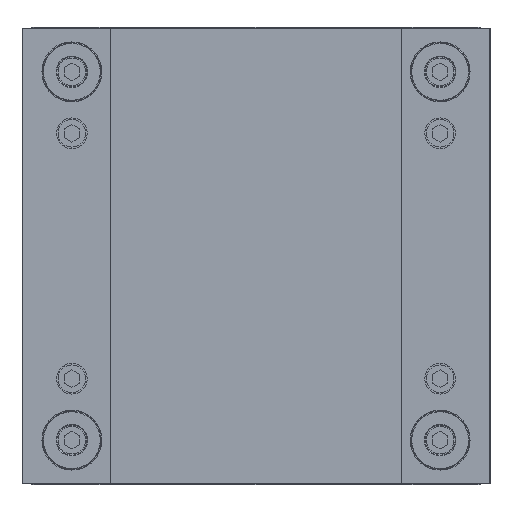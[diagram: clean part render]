
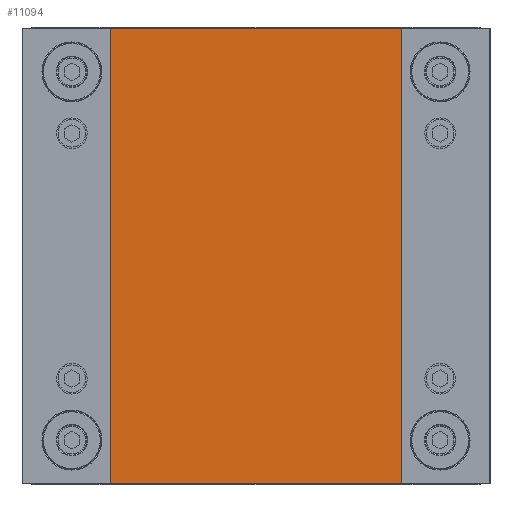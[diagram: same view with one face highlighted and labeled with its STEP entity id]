
A CAD part, front view. The second image highlights one B-rep face of the part: STEP entity #11094.
In plain terms, the highlighted planar face has unit normal (0, -1, 0).
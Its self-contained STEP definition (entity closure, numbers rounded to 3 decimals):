
#11 = VERTEX_POINT ( 'NONE', #451 ) ;
#451 = CARTESIAN_POINT ( 'NONE',  ( 99.5, -20., -148. ) ) ;
#2411 = CARTESIAN_POINT ( 'NONE',  ( 99.5, -20., 148. ) ) ;
#2736 = LINE ( 'NONE', #2737, #2738 ) ;
#2737 = CARTESIAN_POINT ( 'NONE',  ( 99.5, -20., 148. ) ) ;
#2738 = VECTOR ( 'NONE', #2739, 1000. ) ;
#2739 = DIRECTION ( 'NONE',  ( 0., 0., -1. ) ) ;
#2802 = VERTEX_POINT ( 'NONE', #2411 ) ;
#3652 = EDGE_CURVE ( 'NONE', #2802, #11, #2736, .T. ) ;
#7117 = CARTESIAN_POINT ( 'NONE',  ( -99.5, -20., -148. ) ) ;
#7456 = LINE ( 'NONE', #7457, #7458 ) ;
#7457 = CARTESIAN_POINT ( 'NONE',  ( -99.5, -20., 148. ) ) ;
#7458 = VECTOR ( 'NONE', #7459, 1000. ) ;
#7459 = DIRECTION ( 'NONE',  ( 0., 0., -1. ) ) ;
#7606 = CARTESIAN_POINT ( 'NONE',  ( -99.5, -20., 148. ) ) ;
#8361 = FACE_OUTER_BOUND ( 'NONE', #11157, .T. ) ;
#8362 = PLANE ( 'NONE',  #8363 ) ;
#8363 = AXIS2_PLACEMENT_3D ( 'NONE', #8364, #8365, #8366 ) ;
#8364 = CARTESIAN_POINT ( 'NONE',  ( 99.5, -20., 148. ) ) ;
#8365 = DIRECTION ( 'NONE',  ( 0., 1., 0. ) ) ;
#8366 = DIRECTION ( 'NONE',  ( -1., 0., 0. ) ) ;
#8856 = LINE ( 'NONE', #8857, #8858 ) ;
#8857 = CARTESIAN_POINT ( 'NONE',  ( 99.5, -20., -148. ) ) ;
#8858 = VECTOR ( 'NONE', #8865, 1000. ) ;
#8865 = DIRECTION ( 'NONE',  ( 1., 0., 0. ) ) ;
#9575 = LINE ( 'NONE', #9576, #9577 ) ;
#9576 = CARTESIAN_POINT ( 'NONE',  ( 99.5, -20., 148. ) ) ;
#9577 = VECTOR ( 'NONE', #9578, 1000. ) ;
#9578 = DIRECTION ( 'NONE',  ( 1., 0., 0. ) ) ;
#9958 = VERTEX_POINT ( 'NONE', #7117 ) ;
#10679 = EDGE_CURVE ( 'NONE', #10734, #9958, #7456, .T. ) ;
#10734 = VERTEX_POINT ( 'NONE', #7606 ) ;
#11094 = ADVANCED_FACE ( 'NONE', ( #8361 ), #8362, .F. ) ;
#11157 = EDGE_LOOP ( 'NONE', ( #11259, #11452, #11563, #11753 ) ) ;
#11259 = ORIENTED_EDGE ( 'NONE', *, *, #11329, .T. ) ;
#11329 = EDGE_CURVE ( 'NONE', #9958, #11, #8856, .T. ) ;
#11452 = ORIENTED_EDGE ( 'NONE', *, *, #3652, .F. ) ;
#11563 = ORIENTED_EDGE ( 'NONE', *, *, #11632, .F. ) ;
#11632 = EDGE_CURVE ( 'NONE', #10734, #2802, #9575, .T. ) ;
#11753 = ORIENTED_EDGE ( 'NONE', *, *, #10679, .T. ) ;
